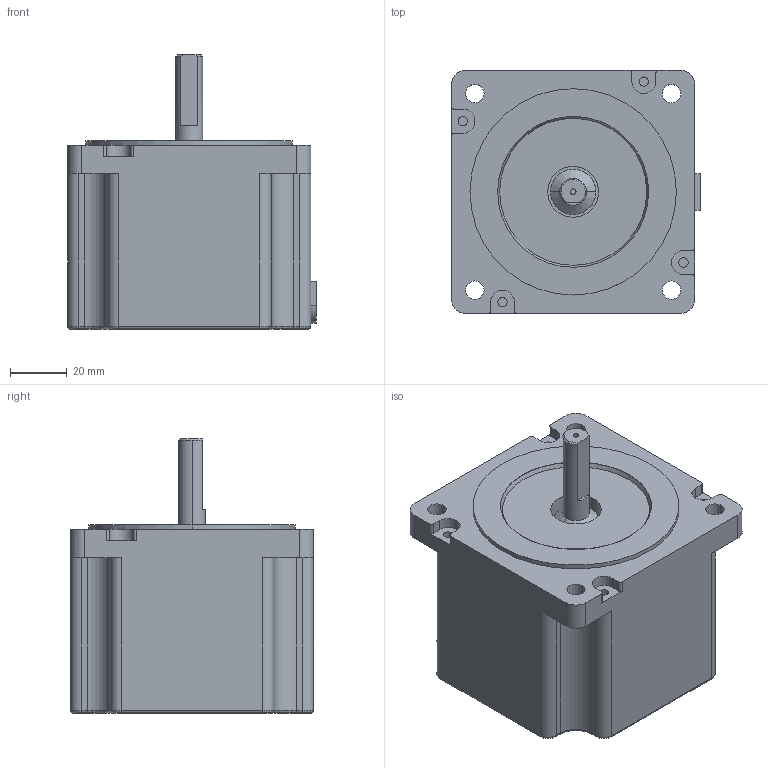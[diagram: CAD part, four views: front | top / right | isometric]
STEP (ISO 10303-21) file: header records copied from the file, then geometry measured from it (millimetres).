
FILE_DESCRIPTION((''),'2;1');
FILE_NAME('ABCD0E94C2B2YBLY_1','2021-11-16T13:32:15',('qingl'),(''),'CREO PARAMETRIC BY PTC INC, 2019224','CREO PARAMETRIC BY PTC INC, 2019224','');
FILE_SCHEMA(('CONFIG_CONTROL_DESIGN'));
Length unit declared in the file: millimetre
Products named in the file (1): ABCD0E94C2B2YBLY_1
Bounding box: 88 x 86 x 97 mm (x, y, z)
Volume: 438427.4 mm3; surface area: 39440.3 mm2
Topology: 1 solids, 1 shells, 293 faces, 803 edges, 528 vertices
Faces by surface type: cylinder 217, plane 51, torus 12, bspline 8, cone 5
Entity records: 14386 total; most frequent: CARTESIAN_POINT 7320, ORIENTED_EDGE 1606, DIRECTION 1270, EDGE_CURVE 803, VERTEX_POINT 528, AXIS2_PLACEMENT_3D 480, EDGE_LOOP 317, VECTOR 310
